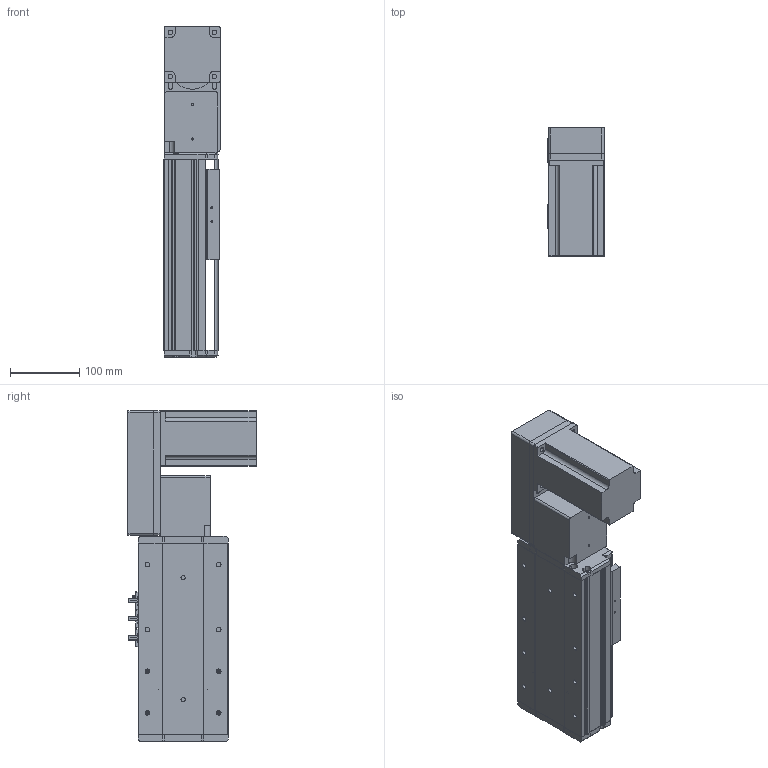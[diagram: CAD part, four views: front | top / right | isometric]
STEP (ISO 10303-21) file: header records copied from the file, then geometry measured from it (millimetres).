
FILE_DESCRIPTION (( 'STEP AP214' ), '1' );
FILE_NAME ('KSD130B-S50-MRB-CM.STEP', '2019-09-21T06:18:26', ( '微软用户' ), ( '微软中国' ), 'SwSTEP 2.0', 'SolidWorks 2014', '' );
FILE_SCHEMA (( 'AUTOMOTIVE_DESIGN' ));
Length unit declared in the file: millimetre
Products named in the file (12): KSD130B-S50-MRB-CM; 台达ECMA－C20807AS伺服电机; 130宽模组保护罩上下左右折-同步带; 130宽模组马达安装板连板左右折同步带; 覜茼え100遵圉猾敕; U倰嫖萇EEㄜSX672; 130宽盖板半封闭同步带-50行程; 130宽马达安装板同步带右-改镜向_默认<按加工>; 130宽马达安装板同步带半封闭; 130宽同步带安装座半封闭; 130宽端盖同步带半封闭; 130宽底板半封闭同步带-50行程
Assembly tree (13 placements, depth 2):
  KSD130B-S50-MRB-CM
    130宽底板半封闭同步带-50行程
    130宽端盖同步带半封闭
    130宽同步带安装座半封闭
    130宽马达安装板同步带半封闭
    130宽马达安装板同步带右-改镜向_默认<按加工>
    130宽盖板半封闭同步带-50行程
    U倰嫖萇EEㄜSX672  x3
    覜茼え100遵圉猾敕
    130宽模组马达安装板连板左右折同步带
    130宽模组保护罩上下左右折-同步带
    台达ECMA－C20807AS伺服电机
Bounding box: 81 x 184.8 x 477 mm (x, y, z)
Volume: 2423842.8 mm3; surface area: 575541.9 mm2
Topology: 14 solids, 14 shells, 1313 faces, 3661 edges, 2371 vertices
Faces by surface type: cylinder 604, plane 598, cone 111
Entity records: 41143 total; most frequent: CARTESIAN_POINT 7200, DIRECTION 6347, ORIENTED_EDGE 6086, EDGE_CURVE 3043, AXIS2_PLACEMENT_3D 2278, VERTEX_POINT 1995, VECTOR 1791, LINE 1791
